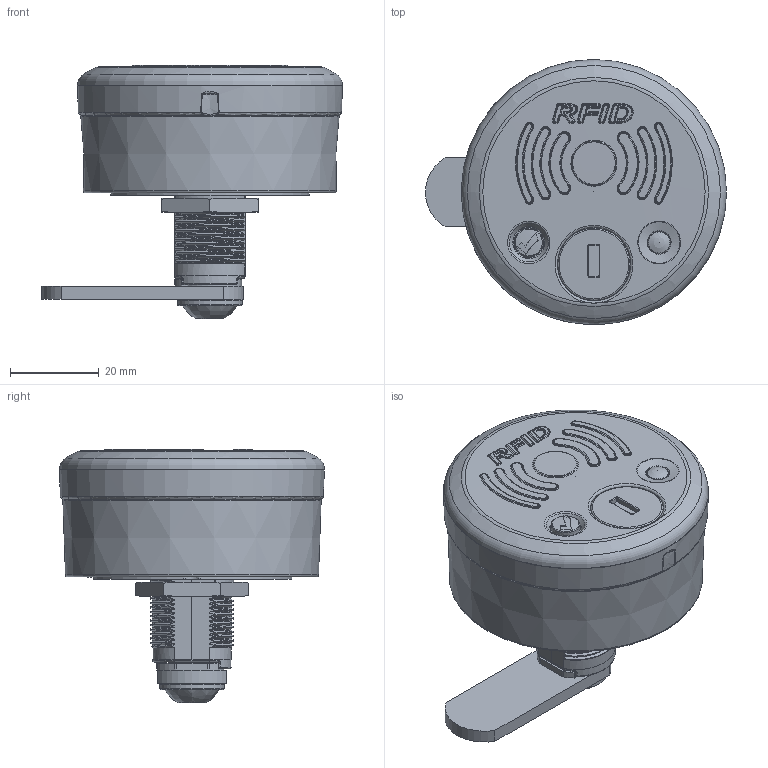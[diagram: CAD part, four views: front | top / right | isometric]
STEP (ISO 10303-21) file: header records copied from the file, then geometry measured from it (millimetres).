
FILE_DESCRIPTION(/* description */ (''),/* implementation_level */ '2;1');
FILE_NAME(/* name */ 'A1905-RFID-3D-Kunden.stp',/* time_stamp */ '2023-03-10T10:11:32+01:00',/* author */ (''),/* organization */ (''),/* preprocessor_version */ 'ST-DEVELOPER v16.7',/* originating_system */ 'SIEMENS PLM Software NX 12.0',/* authorisation */ '');
FILE_SCHEMA (('AUTOMOTIVE_DESIGN { 1 0 10303 214 3 1 1 1 }'));
Length unit declared in the file: millimetre
Products named in the file (1): Karl2F908782arl7
Bounding box: 67.91 x 59.81 x 57.22 mm (x, y, z)
Volume: 82369.1 mm3; surface area: 19225.1 mm2
Topology: 5 solids, 26 shells, 1439 faces, 3649 edges, 2250 vertices
Faces by surface type: bspline 418, cylinder 385, plane 328, torus 160, cone 76, sphere 44, extrusion 16, revolution 12
Full cylindrical faces by diameter (mm): 1 x1, 2 x2, 5 x1, 14.5 x2
Entity records: 70052 total; most frequent: CARTESIAN_POINT 32758, ORIENTED_EDGE 6888, DIRECTION 5465, EDGE_CURVE 3444, AXIS2_PLACEMENT_3D 2230, VERTEX_POINT 2191, EDGE_LOOP 1576, ADVANCED_FACE 1438
